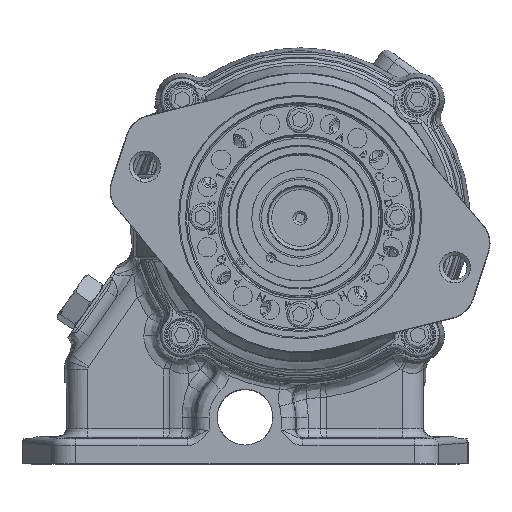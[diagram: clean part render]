
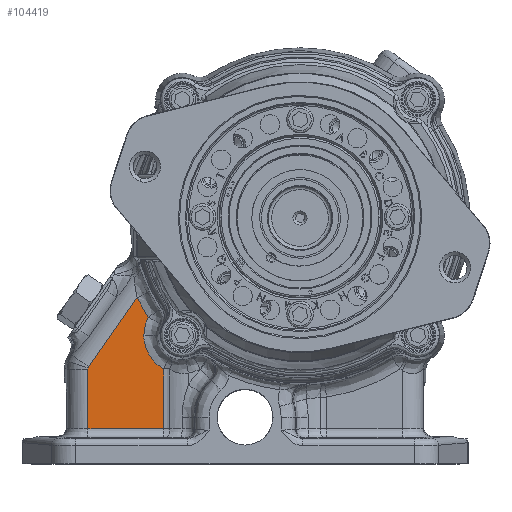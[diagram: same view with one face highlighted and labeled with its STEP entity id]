
A CAD part, top view. The second image highlights one B-rep face of the part: STEP entity #104419.
In plain terms, the highlighted planar face has unit normal (0, 0, 1).
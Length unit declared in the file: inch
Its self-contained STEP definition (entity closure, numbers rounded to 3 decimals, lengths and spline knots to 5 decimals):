
#2684 = EDGE_LOOP ( 'NONE', ( #64844, #33050, #150285, #23834, #18182, #116858, #34285, #46054, #42603 ) ) ;
#2978 = CARTESIAN_POINT ( 'NONE',  ( -1.90515, 0.02832, 1.3875 ) ) ;
#17089 = CARTESIAN_POINT ( 'NONE',  ( -2.27168, 0.32661, 1.3875 ) ) ;
#18182 = ORIENTED_EDGE ( 'NONE', *, *, #39128, .T. ) ;
#19200 = AXIS2_PLACEMENT_3D ( 'NONE', #156157, #144477, #42028 ) ;
#19953 = EDGE_CURVE ( 'NONE', #153306, #129765, #70016, .T. ) ;
#22455 = CARTESIAN_POINT ( 'NONE',  ( -2.3539, 0.52969, 1.3875 ) ) ;
#23834 = ORIENTED_EDGE ( 'NONE', *, *, #63676, .T. ) ;
#25327 = B_SPLINE_CURVE_WITH_KNOTS ( 'NONE', 3,
 ( #124283, #160106, #60967, #84309 ),
 .UNSPECIFIED., .F., .F.,
 ( 4, 4 ),
 ( 0., 1. ),
 .UNSPECIFIED. ) ;
#27922 = FACE_OUTER_BOUND ( 'NONE', #2684, .T. ) ;
#29153 = EDGE_CURVE ( 'NONE', #131172, #91207, #161089, .T. ) ;
#29647 = VECTOR ( 'NONE', #118033, 39.37008 ) ;
#30112 = CARTESIAN_POINT ( 'NONE',  ( -2.82333, -0.64831, 1.3875 ) ) ;
#30774 = CARTESIAN_POINT ( 'NONE',  ( -2.27168, 0.32661, 1.3875 ) ) ;
#32190 = VECTOR ( 'NONE', #38224, 39.37008 ) ;
#33050 = ORIENTED_EDGE ( 'NONE', *, *, #29153, .T. ) ;
#34085 = CARTESIAN_POINT ( 'NONE',  ( -2.36326, 0.58363, 1.3875 ) ) ;
#34285 = ORIENTED_EDGE ( 'NONE', *, *, #132114, .T. ) ;
#38224 = DIRECTION ( 'NONE',  ( -0.074, -0.997, 0. ) ) ;
#39128 = EDGE_CURVE ( 'NONE', #154398, #120649, #58242, .T. ) ;
#40430 = CARTESIAN_POINT ( 'NONE',  ( -1.8435, 0.01383, 1.3875 ) ) ;
#41246 = CARTESIAN_POINT ( 'NONE',  ( -2.15985, 0.1856, 1.3875 ) ) ;
#42028 = DIRECTION ( 'NONE',  ( -0.512, 0.859, 0. ) ) ;
#42587 = CARTESIAN_POINT ( 'NONE',  ( -2.82329, -0.66259, 1.3875 ) ) ;
#42603 = ORIENTED_EDGE ( 'NONE', *, *, #43474, .T. ) ;
#42860 = CARTESIAN_POINT ( 'NONE',  ( -1.69968, -0.00425, 1.3875 ) ) ;
#43474 = EDGE_CURVE ( 'NONE', #153306, #75201, #105025, .T. ) ;
#43982 = CARTESIAN_POINT ( 'NONE',  ( -2.71359, 0.83497, 1.3875 ) ) ;
#46054 = ORIENTED_EDGE ( 'NONE', *, *, #19953, .F. ) ;
#47737 = VECTOR ( 'NONE', #49424, 39.37008 ) ;
#49063 = CARTESIAN_POINT ( 'NONE',  ( -2.29989, 0.374, 1.3875 ) ) ;
#49424 = DIRECTION ( 'NONE',  ( -0.512, 0.859, 0. ) ) ;
#50692 = EDGE_CURVE ( 'NONE', #131172, #75201, #132125, .T. ) ;
#53298 = CARTESIAN_POINT ( 'NONE',  ( -2.82165, -0.66952, 1.3875 ) ) ;
#54153 = VERTEX_POINT ( 'NONE', #43982 ) ;
#54351 = B_SPLINE_CURVE_WITH_KNOTS ( 'NONE', 3,
 ( #91244, #42860, #79549, #90417, #116250, #65433, #66261, #104570, #40430, #2978, #155381, #67874, #93676, #92864, #153729, #117085, #130372, #41246, #141216, #102900, #143670, #17089 ),
 .UNSPECIFIED., .F., .F.,
 ( 4, 1, 1, 1, 1, 2, 2, 2, 1, 1, 1, 1, 2, 2, 4 ),
 ( 0., 0.125, 0.1875, 0.21875, 0.23437, 0.24219, 0.25, 0.5, 0.625, 0.6875, 0.71875, 0.73437, 0.74219, 0.75, 1. ),
 .UNSPECIFIED. ) ;
#56080 = CARTESIAN_POINT ( 'NONE',  ( -2.36601, 0.63873, 1.3875 ) ) ;
#58242 = B_SPLINE_CURVE_WITH_KNOTS ( 'NONE', 3,
 ( #74054, #49063, #99868, #22455, #34085, #85731 ),
 .UNSPECIFIED., .F., .F.,
 ( 4, 2, 4 ),
 ( 0., 0.5, 1. ),
 .UNSPECIFIED. ) ;
#58669 = CARTESIAN_POINT ( 'NONE',  ( -1.12943, -0.91144, 1.3875 ) ) ;
#60967 = CARTESIAN_POINT ( 'NONE',  ( -2.60181, 0.76232, 1.3875 ) ) ;
#61103 = LINE ( 'NONE', #99419, #47737 ) ;
#63676 = EDGE_CURVE ( 'NONE', #77884, #154398, #54351, .T. ) ;
#63961 = EDGE_CURVE ( 'NONE', #91207, #77884, #61103, .T. ) ;
#64182 = CARTESIAN_POINT ( 'NONE',  ( -2.81368, -0.68924, 1.3875 ) ) ;
#64844 = ORIENTED_EDGE ( 'NONE', *, *, #50692, .F. ) ;
#65143 = CARTESIAN_POINT ( 'NONE',  ( -2.82333, -0.64831, 1.3875 ) ) ;
#65433 = CARTESIAN_POINT ( 'NONE',  ( -1.83274, 0.01141, 1.3875 ) ) ;
#66261 = CARTESIAN_POINT ( 'NONE',  ( -1.83816, 0.01261, 1.3875 ) ) ;
#67216 = CARTESIAN_POINT ( 'NONE',  ( -4.18096, 1.60727, 1.3875 ) ) ;
#67606 = CARTESIAN_POINT ( 'NONE',  ( -2.82386, -0.65541, 1.3875 ) ) ;
#67874 = CARTESIAN_POINT ( 'NONE',  ( -2.04276, 0.09442, 1.3875 ) ) ;
#70016 = B_SPLINE_CURVE_WITH_KNOTS ( 'NONE', 3,
 ( #127645, #42587, #67606, #30112 ),
 .UNSPECIFIED., .F., .F.,
 ( 4, 4 ),
 ( 0., 1. ),
 .UNSPECIFIED. ) ;
#74054 = CARTESIAN_POINT ( 'NONE',  ( -2.27168, 0.32661, 1.3875 ) ) ;
#75201 = VERTEX_POINT ( 'NONE', #147875 ) ;
#76659 = CARTESIAN_POINT ( 'NONE',  ( -2.82001, -0.6765, 1.3875 ) ) ;
#77884 = VERTEX_POINT ( 'NONE', #108753 ) ;
#79549 = CARTESIAN_POINT ( 'NONE',  ( -1.74379, -0.00273, 1.3875 ) ) ;
#84309 = CARTESIAN_POINT ( 'NONE',  ( -2.71359, 0.83497, 1.3875 ) ) ;
#84479 = CARTESIAN_POINT ( 'NONE',  ( 0.93723, 0.319, 1.3875 ) ) ;
#85731 = CARTESIAN_POINT ( 'NONE',  ( -2.36601, 0.63873, 1.3875 ) ) ;
#86948 = DIRECTION ( 'NONE',  ( 0.859, 0.512, 0. ) ) ;
#88201 = LINE ( 'NONE', #139030, #32190 ) ;
#90417 = CARTESIAN_POINT ( 'NONE',  ( -1.79475, 0.00409, 1.3875 ) ) ;
#90797 = CARTESIAN_POINT ( 'NONE',  ( -2.81735, -0.68308, 1.3875 ) ) ;
#91207 = VERTEX_POINT ( 'NONE', #58669 ) ;
#91244 = CARTESIAN_POINT ( 'NONE',  ( -1.67009, -0.00335, 1.3875 ) ) ;
#92864 = CARTESIAN_POINT ( 'NONE',  ( -2.12303, 0.15221, 1.3875 ) ) ;
#93045 = CARTESIAN_POINT ( 'NONE',  ( -2.82165, -0.66952, 1.3875 ) ) ;
#93676 = CARTESIAN_POINT ( 'NONE',  ( -2.0813, 0.11908, 1.3875 ) ) ;
#97318 = VECTOR ( 'NONE', #86948, 39.37008 ) ;
#99419 = CARTESIAN_POINT ( 'NONE',  ( -3.03517, 2.28945, 1.3875 ) ) ;
#99868 = CARTESIAN_POINT ( 'NONE',  ( -2.32198, 0.42411, 1.3875 ) ) ;
#102882 = PLANE ( 'NONE',  #19200 ) ;
#102900 = CARTESIAN_POINT ( 'NONE',  ( -2.20502, 0.2296, 1.3875 ) ) ;
#104419 = ADVANCED_FACE ( 'NONE', ( #27922 ), #102882, .T. ) ;
#104570 = CARTESIAN_POINT ( 'NONE',  ( -1.84176, 0.01343, 1.3875 ) ) ;
#105025 = B_SPLINE_CURVE_WITH_KNOTS ( 'NONE', 3,
 ( #53298, #76659, #90797, #64182 ),
 .UNSPECIFIED., .F., .F.,
 ( 4, 4 ),
 ( 0., 1. ),
 .UNSPECIFIED. ) ;
#105136 = CARTESIAN_POINT ( 'NONE',  ( -2.27523, -1.59362, 1.3875 ) ) ;
#108753 = CARTESIAN_POINT ( 'NONE',  ( -1.67009, -0.00335, 1.3875 ) ) ;
#116250 = CARTESIAN_POINT ( 'NONE',  ( -1.8201, 0.00876, 1.3875 ) ) ;
#116858 = ORIENTED_EDGE ( 'NONE', *, *, #156908, .T. ) ;
#117085 = CARTESIAN_POINT ( 'NONE',  ( -2.15292, 0.17899, 1.3875 ) ) ;
#118033 = DIRECTION ( 'NONE',  ( -0.512, 0.859, 0. ) ) ;
#120649 = VERTEX_POINT ( 'NONE', #56080 ) ;
#124283 = CARTESIAN_POINT ( 'NONE',  ( -2.36601, 0.63873, 1.3875 ) ) ;
#127645 = CARTESIAN_POINT ( 'NONE',  ( -2.82165, -0.66952, 1.3875 ) ) ;
#129765 = VERTEX_POINT ( 'NONE', #65143 ) ;
#130372 = CARTESIAN_POINT ( 'NONE',  ( -2.15708, 0.18295, 1.3875 ) ) ;
#131172 = VERTEX_POINT ( 'NONE', #105136 ) ;
#132114 = EDGE_CURVE ( 'NONE', #54153, #129765, #88201, .T. ) ;
#132125 = LINE ( 'NONE', #67216, #29647 ) ;
#139030 = CARTESIAN_POINT ( 'NONE',  ( -2.71359, 0.83497, 1.3875 ) ) ;
#141216 = CARTESIAN_POINT ( 'NONE',  ( -2.16128, 0.18698, 1.3875 ) ) ;
#143670 = CARTESIAN_POINT ( 'NONE',  ( -2.24138, 0.27572, 1.3875 ) ) ;
#144477 = DIRECTION ( 'NONE',  ( 0., 0., 1. ) ) ;
#147875 = CARTESIAN_POINT ( 'NONE',  ( -2.81368, -0.68924, 1.3875 ) ) ;
#150285 = ORIENTED_EDGE ( 'NONE', *, *, #63961, .T. ) ;
#153306 = VERTEX_POINT ( 'NONE', #93045 ) ;
#153729 = CARTESIAN_POINT ( 'NONE',  ( -2.14309, 0.16988, 1.3875 ) ) ;
#154398 = VERTEX_POINT ( 'NONE', #30774 ) ;
#155381 = CARTESIAN_POINT ( 'NONE',  ( -1.962, 0.05013, 1.3875 ) ) ;
#156157 = CARTESIAN_POINT ( 'NONE',  ( -0.9685, 3.51989, 1.3875 ) ) ;
#156908 = EDGE_CURVE ( 'NONE', #120649, #54153, #25327, .T. ) ;
#160106 = CARTESIAN_POINT ( 'NONE',  ( -2.48596, 0.69691, 1.3875 ) ) ;
#161089 = LINE ( 'NONE', #84479, #97318 ) ;
